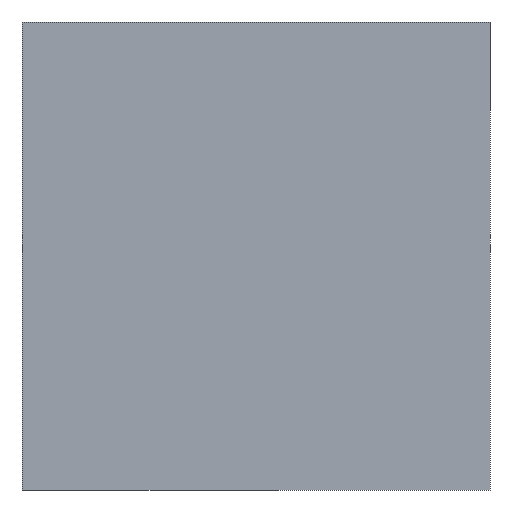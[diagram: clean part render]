
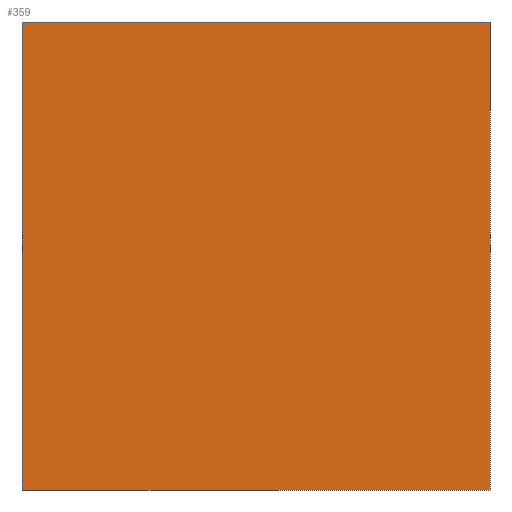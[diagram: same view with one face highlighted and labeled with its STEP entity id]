
A CAD part, left-side view. The second image highlights one B-rep face of the part: STEP entity #359.
In plain terms, the highlighted planar face has unit normal (-1, 0, 0).
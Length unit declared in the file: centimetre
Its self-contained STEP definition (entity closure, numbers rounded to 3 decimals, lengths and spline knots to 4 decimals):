
#3 = VERTEX_POINT ( 'NONE', #72 ) ;
#35 = CARTESIAN_POINT ( 'NONE',  ( 0., 1000., 0. ) ) ;
#72 = CARTESIAN_POINT ( 'NONE',  ( 0., 1000., 1000. ) ) ;
#81 = EDGE_CURVE ( 'NONE', #493, #337, #409, .T. ) ;
#108 = LINE ( 'NONE', #460, #414 ) ;
#121 = DIRECTION ( 'NONE',  ( 1., 0., 0. ) ) ;
#125 = DIRECTION ( 'NONE',  ( 0., 0., -1. ) ) ;
#136 = VECTOR ( 'NONE', #482, 100. ) ;
#146 = VECTOR ( 'NONE', #125, 100. ) ;
#149 = EDGE_CURVE ( 'NONE', #3, #154, #211, .T. ) ;
#151 = PLANE ( 'NONE',  #179 ) ;
#154 = VERTEX_POINT ( 'NONE', #35 ) ;
#179 = AXIS2_PLACEMENT_3D ( 'NONE', #436, #121, #394 ) ;
#182 = ORIENTED_EDGE ( 'NONE', *, *, #81, .F. ) ;
#211 = LINE ( 'NONE', #404, #136 ) ;
#217 = CARTESIAN_POINT ( 'NONE',  ( 0., 1000., 1000. ) ) ;
#223 = ORIENTED_EDGE ( 'NONE', *, *, #299, .T. ) ;
#234 = CARTESIAN_POINT ( 'NONE',  ( 0., 0., 0. ) ) ;
#265 = DIRECTION ( 'NONE',  ( 0., -1., 0. ) ) ;
#276 = ORIENTED_EDGE ( 'NONE', *, *, #485, .F. ) ;
#299 = EDGE_CURVE ( 'NONE', #154, #337, #108, .T. ) ;
#314 = EDGE_LOOP ( 'NONE', ( #223, #182, #276, #486 ) ) ;
#337 = VERTEX_POINT ( 'NONE', #234 ) ;
#350 = VECTOR ( 'NONE', #265, 100. ) ;
#359 = ADVANCED_FACE ( 'NONE', ( #360 ), #151, .F. ) ;
#360 = FACE_OUTER_BOUND ( 'NONE', #314, .T. ) ;
#394 = DIRECTION ( 'NONE',  ( 0., 0., -1. ) ) ;
#401 = CARTESIAN_POINT ( 'NONE',  ( 0., 0., 1000. ) ) ;
#404 = CARTESIAN_POINT ( 'NONE',  ( 0., 1000., 1000. ) ) ;
#409 = LINE ( 'NONE', #401, #146 ) ;
#414 = VECTOR ( 'NONE', #463, 100. ) ;
#426 = CARTESIAN_POINT ( 'NONE',  ( 0., 0., 1000. ) ) ;
#436 = CARTESIAN_POINT ( 'NONE',  ( 0., 1000., 1000. ) ) ;
#458 = LINE ( 'NONE', #217, #350 ) ;
#460 = CARTESIAN_POINT ( 'NONE',  ( 0., 1000., 0. ) ) ;
#463 = DIRECTION ( 'NONE',  ( 0., -1., 0. ) ) ;
#482 = DIRECTION ( 'NONE',  ( 0., 0., -1. ) ) ;
#485 = EDGE_CURVE ( 'NONE', #3, #493, #458, .T. ) ;
#486 = ORIENTED_EDGE ( 'NONE', *, *, #149, .T. ) ;
#493 = VERTEX_POINT ( 'NONE', #426 ) ;
